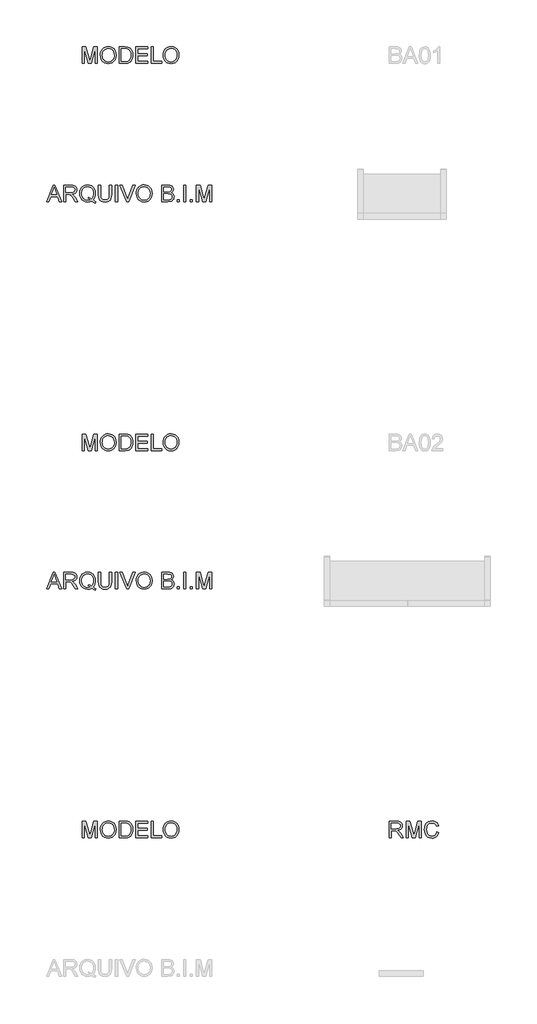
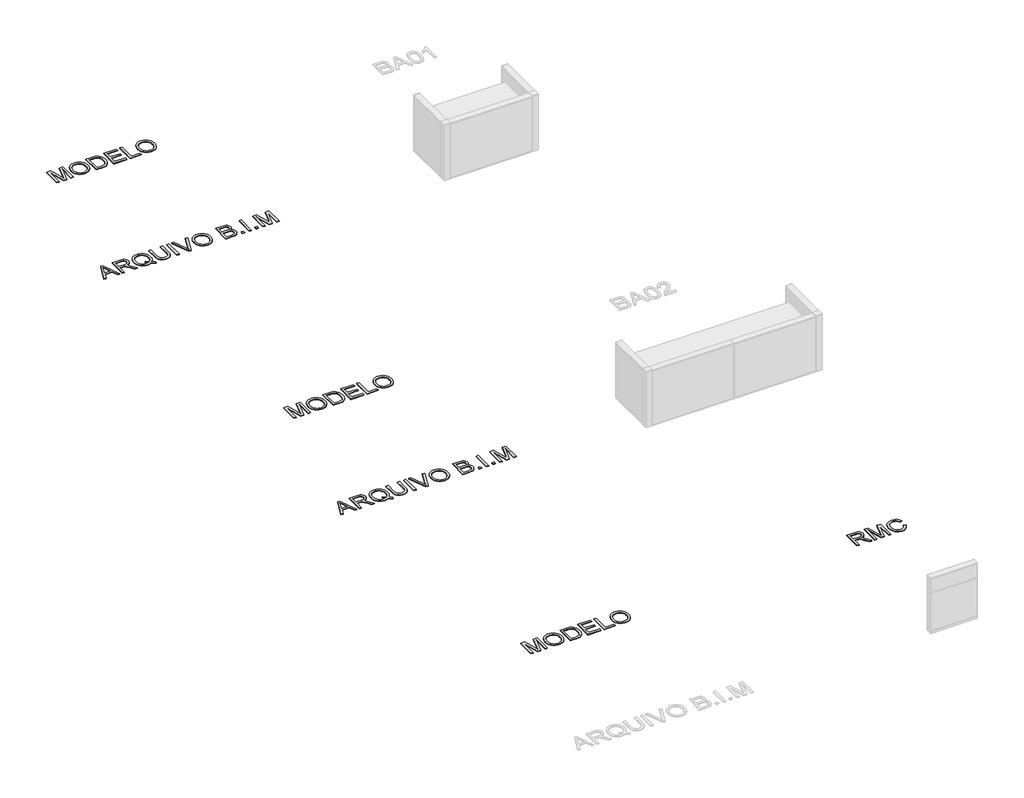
# One storey, part 14 of 15: 6 proxies.
"""IFC4 building model written with IfcOpenShell, lengths in millimetres."""

from ifc_helpers import new_model, si_unit, origin, origin_with_axes, place, context, project, spatial, polyline, outline, extrude, element, save

model = new_model("IFC4")

# Units and contexts
model_context = context("Model", 3, world=origin())
ifc_project = project(units=[si_unit("LENGTHUNIT", "METRE", prefix="MILLI")], contexts=[model_context])

# Site, building, storey
site = spatial("IfcSite", under=ifc_project)
building = spatial("IfcBuilding", under=site)
storey = spatial("IfcBuildingStorey", under=building, Name="Marelli - Linha REASONS - Planta Baixa", Elevation=0.0)

# Proxies
placement = place(None, origin())
element("IfcBuildingElementProxy", 1, Name="300mm Arial", ObjectType="300mm Arial", at=placement, inside=storey, context=model_context, shape_type="SweptSolid", body=[
    extrude(outline(polyline([(15588.7720603, -4780.5663201), (15588.7720603, -4479.1973896), (15718.6344046, -4479.1973896), (15753.5372089, -4481.2299376), (15778.9302636, -4487.3275817), (15797.4899103, -4498.5847708), (15811.8924904, -4516.0959537), (15821.1355255, -4537.8101885), (15824.2165372, -4561.6765329), (15819.1121745, -4591.3646099), (15803.7990865, -4615.9759154), (15792.1993073, -4626.0052983), (15777.8174206, -4634.0205273), (15740.7073243, -4644.0085235), (15762.1180564, -4660.1217548), (15792.652262, -4698.8965171), (15842.9049426, -4780.5663201), (15799.1269851, -4780.5663201), (15759.9107645, -4718.0999573), (15731.5838508, -4676.750021), (15711.6814349, -4657.2154871), (15693.7655817, -4650.0417882), (15671.9133912, -4648.717413), (15626.4431766, -4648.717413), (15626.4431766, -4780.5663201), (15588.7720603, -4780.5663201)]), holes=[polyline([(15626.4431766, -4611.0462967), (15710.7617299, -4611.0462967), (15734.9775622, -4609.7127245), (15753.7671351, -4605.7120078), (15767.9121979, -4598.7774322), (15778.1944996, -4588.6422832), (15784.4576906, -4576.3826157), (15786.5454209, -4563.0744845), (15782.5630983, -4544.6987789), (15770.6161305, -4529.8915286), (15750.060724, -4520.1242616), (15720.2530854, -4516.8685059), (15626.4431766, -4516.8685059), (15626.4431766, -4611.0462967)])]), origin_with_axes(), (0.0, 0.0, 1.0), 10.0),
    extrude(outline(polyline([(15890.1409908, -4780.5663201), (15890.1409908, -4479.1973896), (15954.9617983, -4479.1973896), (16016.6188207, -4691.6124536), (16029.0532321, -4735.9790223), (16042.5177132, -4687.9336337), (16103.144666, -4479.1973896), (16167.9654735, -4479.1973896), (16167.9654735, -4780.5663201), (16130.2943572, -4780.5663201), (16130.2943572, -4516.8685059), (16054.5842426, -4780.5663201), (16003.5222217, -4780.5663201), (15927.8121071, -4516.8685059), (15927.8121071, -4780.5663201), (15890.1409908, -4780.5663201)])), origin_with_axes(), (0.0, 0.0, 1.0), 10.0),
    extrude(outline(polyline([(16445.7899563, -4673.4390831), (16483.4610726, -4683.1511677), (16476.0068636, -4706.5783531), (16466.0786483, -4727.0486868), (16453.6764265, -4744.5621691), (16438.8001984, -4759.1187997), (16421.7856561, -4770.5622291), (16402.968492, -4778.7361071), (16382.3487062, -4783.640434), (16359.9262986, -4785.2752096), (16316.2311146, -4780.3271968), (16281.5306454, -4765.4831583), (16254.9327772, -4741.2581289), (16235.545396, -4708.1671434), (16223.7087928, -4669.2636224), (16219.7632584, -4627.6009865), (16224.2238276, -4583.6574821), (16237.6055352, -4545.7104543), (16259.2094054, -4514.9647166), (16288.3364623, -4492.6250824), (16322.8805817, -4479.0226457), (16360.735639, -4474.4885001), (16402.03959, -4480.3562179), (16420.0083262, -4487.6908652), (16436.1882362, -4497.9593714), (16450.3126055, -4510.8904235), (16462.1147198, -4526.2127086), (16478.752183, -4564.0309777), (16441.0810667, -4573.0072984), (16428.0212559, -4545.5357104), (16410.1789791, -4526.6909552), (16387.3335072, -4515.7924511), (16359.264111, -4512.1596164), (16326.9088895, -4516.1879242), (16300.3294154, -4528.2728478), (16280.160285, -4547.1451941), (16267.0360948, -4571.5357704), (16259.8348048, -4599.1085259), (16257.4343747, -4627.5274101), (16260.2762631, -4662.3290468), (16268.8019284, -4692.421794), (16283.3332672, -4716.6560205), (16304.1921763, -4733.8820949), (16329.1989549, -4744.1735937), (16356.1739022, -4747.6040933), (16387.6186158, -4742.931992), (16413.8210109, -4728.9156879), (16433.6038652, -4705.702334), (16445.7899563, -4673.4390831)])), origin_with_axes(), (0.0, 0.0, 1.0), 10.0),
])
element("IfcBuildingElementProxy", 2, Name="300mm Arial", ObjectType="300mm Arial", at=placement, inside=storey, context=model_context, shape_type="SweptSolid", body=[
    extrude(outline(polyline([(10033.1230948, -4780.5663201), (10033.1230948, -4479.1973896), (10097.9439023, -4479.1973896), (10159.6009247, -4691.6124536), (10172.0353362, -4735.9790223), (10185.4998172, -4687.9336337), (10246.12677, -4479.1973896), (10310.9475775, -4479.1973896), (10310.9475775, -4780.5663201), (10273.2764612, -4780.5663201), (10273.2764612, -4516.8685059), (10197.5663466, -4780.5663201), (10146.5043257, -4780.5663201), (10070.7942111, -4516.8685059), (10070.7942111, -4780.5663201), (10033.1230948, -4780.5663201)])), origin_with_axes(), (0.0, 0.0, 1.0), 10.0),
    extrude(outline(polyline([(10362.7453625, -4633.8549804), (10365.2561571, -4598.5061192), (10372.7885409, -4567.213157), (10385.342514, -4539.9760937), (10402.9180763, -4516.7949295), (10424.4621657, -4498.2858666), (10448.9217198, -4485.0651074), (10476.2967388, -4477.1326519), (10506.5872226, -4474.4885001), (10546.116143, -4479.454907), (10581.5615732, -4494.3541278), (10610.9921328, -4518.1376988), (10632.4764413, -4549.7571563), (10645.6098286, -4587.68579), (10649.9876243, -4630.3968896), (10645.3799023, -4673.6782064), (10631.5567363, -4712.140269), (10609.2814815, -4743.8149088), (10579.317493, -4766.733957), (10544.1755654, -4780.6398965), (10506.3664934, -4785.2752096), (10466.2305677, -4780.1524528), (10430.5828024, -4764.7841825), (10401.2258192, -4740.5591531), (10379.9622398, -4708.8661192), (10367.0495818, -4672.3998164), (10362.7453625, -4633.8549804)]), holes=[polyline([(10400.4164788, -4634.2228624), (10402.2995747, -4659.1974513), (10407.9488626, -4681.3669401), (10417.3643424, -4700.7313286), (10430.5460142, -4717.2906169), (10446.5695743, -4730.5527628), (10464.5107194, -4740.0257242), (10484.3694493, -4745.709501), (10506.1457642, -4747.6040933), (10528.2945596, -4745.6911069), (10548.3878143, -4739.9521478), (10566.4255284, -4730.3872159), (10582.4077018, -4716.9963113), (10595.4928045, -4700.0875351), (10604.8393064, -4679.9689885), (10610.4472076, -4656.6406715), (10612.316508, -4630.102584), (10609.1159346, -4596.7540812), (10599.5142146, -4567.9305269), (10583.7596681, -4544.358488), (10562.1006157, -4526.7645316), (10535.9717969, -4515.8108452), (10506.8079518, -4512.1596164), (10485.7880943, -4513.9185522), (10466.28575, -4519.1953595), (10448.300919, -4527.9900385), (10431.8336012, -4540.302589), (10418.0886101, -4556.7262208), (10408.2707594, -4577.8541437), (10402.3800489, -4603.6863575), (10400.4164788, -4634.2228624)])]), origin_with_axes(), (0.0, 0.0, 1.0), 10.0),
    extrude(outline(polyline([(10701.7854092, -4780.5663201), (10701.7854092, -4479.1973896), (10805.7488611, -4479.1973896), (10859.5332088, -4483.5383972), (10883.555903, -4491.9077126), (10903.826201, -4505.0962821), (10924.666716, -4528.0521186), (10939.5107545, -4556.5997614), (10948.3951047, -4590.1873876), (10951.3565547, -4628.2631741), (10949.3515979, -4660.6091985), (10943.3367273, -4689.0740679), (10934.1764656, -4713.3082943), (10922.7353355, -4732.9623899), (10909.5651601, -4748.477813), (10895.2177623, -4760.2960221), (10878.745846, -4769.0608107), (10859.202115, -4775.4159721), (10810.7520562, -4780.5663201), (10701.7854092, -4780.5663201)]), holes=[polyline([(10739.4565255, -4742.8952038), (10806.1167431, -4742.8952038), (10833.6894986, -4741.5340404), (10854.60359, -4737.4505502), (10870.3857276, -4730.8838566), (10882.5626217, -4722.0730828), (10895.6500236, -4705.7667134), (10905.48167, -4684.6594839), (10911.6344963, -4658.6594239), (10913.6854384, -4627.6745629), (10909.6663276, -4586.6189322), (10897.6089953, -4556.3054558), (10879.7943096, -4535.4833349), (10858.5031392, -4522.9017706), (10836.8348897, -4518.3768221), (10805.0866735, -4516.8685059), (10739.4565255, -4516.8685059), (10739.4565255, -4742.8952038)])]), origin_with_axes(), (0.0, 0.0, 1.0), 10.0),
    extrude(outline(polyline([(11003.1543397, -4780.5663201), (11003.1543397, -4479.1973896), (11219.7632584, -4479.1973896), (11219.7632584, -4516.8685059), (11040.825456, -4516.8685059), (11040.825456, -4606.3374072), (11210.3454794, -4606.3374072), (11210.3454794, -4644.0085235), (11040.825456, -4644.0085235), (11040.825456, -4742.8952038), (11224.472148, -4742.8952038), (11224.472148, -4780.5663201), (11003.1543397, -4780.5663201)])), origin_with_axes(), (0.0, 0.0, 1.0), 10.0),
    extrude(outline(polyline([(11280.9788224, -4780.5663201), (11280.9788224, -4479.1973896), (11318.6499387, -4479.1973896), (11318.6499387, -4742.8952038), (11469.334404, -4742.8952038), (11469.334404, -4780.5663201), (11280.9788224, -4780.5663201)])), origin_with_axes(), (0.0, 0.0, 1.0), 10.0),
    extrude(outline(polyline([(11497.5877412, -4633.8549804), (11500.0985358, -4598.5061192), (11507.6309197, -4567.213157), (11520.1848927, -4539.9760937), (11537.7604551, -4516.7949295), (11559.3045444, -4498.2858666), (11583.7640986, -4485.0651074), (11611.1391175, -4477.1326519), (11641.4296013, -4474.4885001), (11680.9585217, -4479.454907), (11716.4039519, -4494.3541278), (11745.8345115, -4518.1376988), (11767.3188201, -4549.7571563), (11780.4522073, -4587.68579), (11784.830003, -4630.3968896), (11780.222281, -4673.6782064), (11766.3991151, -4712.140269), (11744.1238603, -4743.8149088), (11714.1598717, -4766.733957), (11679.0179442, -4780.6398965), (11641.2088721, -4785.2752096), (11601.0729464, -4780.1524528), (11565.4251811, -4764.7841825), (11536.0681979, -4740.5591531), (11514.8046186, -4708.8661192), (11501.8919605, -4672.3998164), (11497.5877412, -4633.8549804)]), holes=[polyline([(11535.2588575, -4634.2228624), (11537.1419535, -4659.1974513), (11542.7912413, -4681.3669401), (11552.2067212, -4700.7313286), (11565.3883929, -4717.2906169), (11581.4119531, -4730.5527628), (11599.3530981, -4740.0257242), (11619.2118281, -4745.709501), (11640.9881429, -4747.6040933), (11663.1369383, -4745.6911069), (11683.230193, -4739.9521478), (11701.2679071, -4730.3872159), (11717.2500805, -4716.9963113), (11730.3351832, -4700.0875351), (11739.6816852, -4679.9689885), (11745.2895863, -4656.6406715), (11747.1588867, -4630.102584), (11743.9583134, -4596.7540812), (11734.3565933, -4567.9305269), (11718.6020468, -4544.358488), (11696.9429944, -4526.7645316), (11670.8141757, -4515.8108452), (11641.6503305, -4512.1596164), (11620.630473, -4513.9185522), (11601.1281287, -4519.1953595), (11583.1432977, -4527.9900385), (11566.6759799, -4540.302589), (11552.9309888, -4556.7262208), (11543.1131381, -4577.8541437), (11537.2224276, -4603.6863575), (11535.2588575, -4634.2228624)])]), origin_with_axes(), (0.0, 0.0, 1.0), 10.0),
])
element("IfcBuildingElementProxy", 3, Name="300mm Arial", ObjectType="300mm Arial", at=placement, inside=storey, context=model_context, shape_type="SweptSolid", body=[
    extrude(outline(polyline([(9390.580402, -280.5663201), (9510.8778144, 20.8026104), (9542.9571244, 20.8026104), (9663.2545368, -280.5663201), (9623.449705, -280.5663201), (9588.9423738, -186.3885293), (9464.8189886, -186.3885293), (9430.3852339, -280.5663201), (9390.580402, -280.5663201)]), holes=[polyline([(9478.6513517, -148.717413), (9575.1835872, -148.717413), (9548.0338959, -74.6259792), (9526.9174694, -16.8685059), (9508.1554877, -68.1512561), (9478.6513517, -148.717413)])]), origin_with_axes(), (0.0, 0.0, 1.0), 10.0),
    extrude(outline(polyline([(9703.5008271, -280.5663201), (9703.5008271, 20.8026104), (9833.3631714, 20.8026104), (9868.2659757, 18.7700624), (9893.6590304, 12.6724183), (9912.2186771, 1.4152292), (9926.6212572, -16.0959537), (9935.8642923, -37.8101885), (9938.945304, -61.6765329), (9933.8409413, -91.3646099), (9918.5278533, -115.9759154), (9906.9280741, -126.0052983), (9892.5461874, -134.0205273), (9855.4360911, -144.0085235), (9876.8468232, -160.1217548), (9907.3810288, -198.8965171), (9957.6337094, -280.5663201), (9913.855752, -280.5663201), (9874.6395313, -218.0999573), (9846.3126176, -176.750021), (9826.4102017, -157.2154871), (9808.4943485, -150.0417882), (9786.642158, -148.717413), (9741.1719434, -148.717413), (9741.1719434, -280.5663201), (9703.5008271, -280.5663201)]), holes=[polyline([(9741.1719434, -111.0462967), (9825.4904967, -111.0462967), (9849.706329, -109.7127245), (9868.4959019, -105.7120078), (9882.6409647, -98.7774322), (9892.9232664, -88.6422832), (9899.1864574, -76.3826157), (9901.2741877, -63.0744845), (9897.2918651, -44.6987789), (9885.3448973, -29.8915286), (9864.7894908, -20.1242616), (9834.9818522, -16.8685059), (9741.1719434, -16.8685059), (9741.1719434, -111.0462967)])]), origin_with_axes(), (0.0, 0.0, 1.0), 10.0),
    extrude(outline(polyline([(10231.2643374, -244.4403081), (10255.5997314, -263.036743), (10277.9853508, -275.8574305), (10267.8318077, -303.4485802), (10236.7641732, -289.0460001), (10205.8069033, -268.205485), (10170.9500843, -281.0077785), (10132.5983863, -285.2752096), (10094.0627473, -280.3547879), (10059.2427164, -265.5935229), (10030.0788713, -241.9203165), (10008.5117893, -210.2640708), (9995.185264, -172.3630282), (9990.7430889, -129.9554312), (9995.176067, -87.511046), (10008.4750011, -49.0581805), (10029.9593096, -16.9512794), (10058.9484108, 6.4552126), (10093.639683, 20.7474281), (10132.2305043, 25.5114999), (10171.1248282, 20.6370635), (10205.9908443, 6.0137542), (10234.9339603, -17.3835407), (10256.0595839, -48.5799339), (10268.9722419, -85.9199564), (10273.2764612, -127.7481393), (10270.6644991, -162.5313819), (10262.8286126, -193.5990164), (10249.7136194, -220.9142546), (10231.2643374, -244.4403081)]), holes=[polyline([(10142.9726585, -194.3347804), (10174.6472983, -206.3093393), (10200.215097, -222.9559996), (10215.6983305, -205.4816049), (10226.7577829, -184.1076609), (10233.3934544, -158.8341679), (10235.6053449, -129.6611256), (10232.478348, -96.5057608), (10223.0973571, -67.8201623), (10207.6922985, -44.3308969), (10186.4930986, -26.7645316), (10160.934497, -15.8108452), (10132.4512335, -12.1596164), (10110.966925, -14.0059242), (10091.3956028, -19.5448474), (10073.7372671, -28.7763863), (10057.9919177, -41.7005406), (10045.0516685, -58.2897193), (10035.8086334, -78.5163313), (10030.2628123, -102.3803764), (10028.4142052, -129.8818548), (10030.2421189, -156.6659634), (10035.7258599, -180.1437324), (10044.8654282, -200.3151621), (10057.6608239, -217.1802523), (10073.2981079, -230.4906827), (10090.9633415, -239.9981331), (10110.6565245, -245.7026032), (10132.3776571, -247.6040933), (10153.2917485, -245.6727128), (10172.918253, -239.8785714), (10153.6228423, -229.853787), (10133.2605739, -223.1767288), (10142.9726585, -194.3347804)])]), origin_with_axes(), (0.0, 0.0, 1.0), 10.0),
    extrude(outline(polyline([(10527.5564963, 20.8026104), (10565.2276126, 20.8026104), (10565.2276126, -153.0584205), (10562.6708327, -193.7737604), (10555.0004931, -225.1265034), (10540.6714894, -249.3147446), (10518.1387172, -268.5365788), (10487.3469942, -281.0905519), (10448.2411381, -285.2752096), (10409.9906077, -281.6331779), (10379.4104168, -270.7070826), (10356.4913685, -252.8740029), (10341.2242657, -228.5110178), (10332.6434182, -195.8338995), (10329.7831357, -153.0584205), (10329.7831357, 20.8026104), (10367.454252, 20.8026104), (10367.454252, -151.7340454), (10369.3120561, -185.588386), (10374.8854683, -209.1604248), (10384.9838291, -225.4851883), (10400.4164788, -237.597703), (10420.5396239, -245.1024957), (10444.709471, -247.6040933), (10483.0243808, -242.6560805), (10497.3671801, -236.4710644), (10508.500209, -227.812042), (10516.8373347, -215.6351479), (10522.7924245, -198.8965171), (10527.5564963, -151.7340454), (10527.5564963, 20.8026104)])), origin_with_axes(), (0.0, 0.0, 1.0), 10.0),
    extrude(outline(polyline([(10635.8609557, -280.5663201), (10635.8609557, 20.8026104), (10673.532072, 20.8026104), (10673.532072, -280.5663201), (10635.8609557, -280.5663201)])), origin_with_axes(), (0.0, 0.0, 1.0), 10.0),
    extrude(outline(polyline([(10837.9017474, -280.5663201), (10717.972217, 20.8026104), (10758.2920837, 20.8026104), (10838.563935, -196.3213432), (10854.8243192, -245.2496485), (10870.8639742, -196.3213432), (10951.3565547, 20.8026104), (10991.6764214, 20.8026104), (10876.8236625, -280.5663201), (10837.9017474, -280.5663201)])), origin_with_axes(), (0.0, 0.0, 1.0), 10.0),
    extrude(outline(polyline([(11012.5721187, -133.8549804), (11015.0829134, -98.5061192), (11022.6152972, -67.213157), (11035.1692703, -39.9760937), (11052.7448326, -16.7949295), (11074.288922, 1.7141334), (11098.7484761, 14.9348926), (11126.1234951, 22.8673481), (11156.4139789, 25.5114999), (11195.9428992, 20.545093), (11231.3883295, 5.6458722), (11260.8188891, -18.1376988), (11282.3031976, -49.7571563), (11295.4365848, -87.68579), (11299.8143806, -130.3968896), (11295.2066586, -173.6782064), (11281.3834926, -212.140269), (11259.1082378, -243.8149088), (11229.1442493, -266.733957), (11194.0023217, -280.6398965), (11156.1932497, -285.2752096), (11116.057324, -280.1524528), (11080.4095587, -264.7841825), (11051.0525754, -240.5591531), (11029.7889961, -208.8661192), (11016.8763381, -172.3998164), (11012.5721187, -133.8549804)]), holes=[polyline([(11050.2432351, -134.2228624), (11052.126331, -159.1974513), (11057.7756189, -181.3669401), (11067.1910987, -200.7313286), (11080.3727705, -217.2906169), (11096.3963306, -230.5527628), (11114.3374757, -240.0257242), (11134.1962056, -245.709501), (11155.9725205, -247.6040933), (11178.1213158, -245.6911069), (11198.2145706, -239.9521478), (11216.2522846, -230.3872159), (11232.2344581, -216.9963113), (11245.3195608, -200.0875351), (11254.6660627, -179.9689885), (11260.2739639, -156.6406715), (11262.1432643, -130.102584), (11258.9426909, -96.7540812), (11249.3409708, -67.9305269), (11233.5864244, -44.358488), (11211.9273719, -26.7645316), (11185.7985532, -15.8108452), (11156.6347081, -12.1596164), (11135.6148506, -13.9185522), (11116.1125063, -19.1953595), (11098.1276752, -27.9900385), (11081.6603574, -40.302589), (11067.9153664, -56.7262208), (11058.0975156, -77.8541437), (11052.2068052, -103.6863575), (11050.2432351, -134.2228624)])]), origin_with_axes(), (0.0, 0.0, 1.0), 10.0),
    extrude(outline(polyline([(11469.334404, -280.5663201), (11469.334404, 20.8026104), (11584.3343157, 20.8026104), (11615.9629702, 18.5861214), (11640.6570491, 11.9366543), (11659.5845778, 0.6886623), (11673.9135815, -15.3234015), (11682.9358874, -34.1589597), (11685.9433227, -53.8774346), (11683.414134, -72.0232141), (11675.8265679, -89.0837416), (11663.125442, -104.0105535), (11645.2555741, -115.7551862), (11666.6019268, -126.9020107), (11682.3748674, -143.8613707), (11692.1145432, -165.5112261), (11695.3611018, -190.7295368), (11693.1446128, -211.7447958), (11686.4951457, -231.2333445), (11676.5715289, -247.8064284), (11664.5325906, -260.0752929), (11649.7897196, -268.9596431), (11631.7543048, -275.3791839), (11583.4513989, -280.5663201), (11469.334404, -280.5663201)]), holes=[polyline([(11507.0055203, -101.6285176), (11575.7994534, -101.6285176), (11615.9721672, -98.3911561), (11630.0344565, -92.8085468), (11640.1420143, -84.4484284), (11646.2396584, -73.4395597), (11648.2722064, -59.9106994), (11646.3776141, -46.7773121), (11640.6938373, -35.3361821), (11631.4783933, -26.4058467), (11618.9887996, -20.8048433), (11570.575529, -16.8685059), (11507.0055203, -16.8685059), (11507.0055203, -101.6285176)]), polyline([(11507.0055203, -242.8952038), (11584.2607393, -242.8952038), (11612.2197709, -241.4236758), (11635.8745832, -233.2199073), (11651.5463562, -216.4812765), (11656.1540782, -204.6538704), (11657.6899855, -191.0974188), (11655.8873637, -175.3520694), (11650.4794984, -161.814012), (11641.0341282, -151.2282076), (11627.1189917, -144.3396173), (11607.4097138, -140.5596298), (11580.5819193, -139.2996339), (11507.0055203, -139.2996339), (11507.0055203, -242.8952038)])]), origin_with_axes(), (0.0, 0.0, 1.0), 10.0),
    extrude(outline(polyline([(11751.8677763, -280.5663201), (11751.8677763, -242.8952038), (11789.5388926, -242.8952038), (11789.5388926, -280.5663201), (11751.8677763, -280.5663201)])), origin_with_axes(), (0.0, 0.0, 1.0), 10.0),
    extrude(outline(polyline([(11869.5900147, -280.5663201), (11869.5900147, 20.8026104), (11907.261131, 20.8026104), (11907.261131, -280.5663201), (11869.5900147, -280.5663201)])), origin_with_axes(), (0.0, 0.0, 1.0), 10.0),
    extrude(outline(polyline([(11987.3122532, -280.5663201), (11987.3122532, -242.8952038), (12024.9833695, -242.8952038), (12024.9833695, -280.5663201), (11987.3122532, -280.5663201)])), origin_with_axes(), (0.0, 0.0, 1.0), 10.0),
    extrude(outline(polyline([(12100.3256021, -280.5663201), (12100.3256021, 20.8026104), (12165.1464096, 20.8026104), (12226.803432, -191.6124536), (12239.2378435, -235.9790223), (12252.7023245, -187.9336337), (12313.3292773, 20.8026104), (12378.1500848, 20.8026104), (12378.1500848, -280.5663201), (12340.4789685, -280.5663201), (12340.4789685, -16.8685059), (12264.7688539, -280.5663201), (12213.706833, -280.5663201), (12137.9967184, -16.8685059), (12137.9967184, -280.5663201), (12100.3256021, -280.5663201)])), origin_with_axes(), (0.0, 0.0, 1.0), 10.0),
])
element("IfcBuildingElementProxy", 4, Name="300mm Arial", ObjectType="300mm Arial", at=placement, inside=storey, context=model_context, shape_type="SweptSolid", body=[
    extrude(outline(polyline([(10033.1230948, 2219.4336799), (10033.1230948, 2520.8026104), (10097.9439023, 2520.8026104), (10159.6009247, 2308.3875464), (10172.0353362, 2264.0209777), (10185.4998172, 2312.0663663), (10246.12677, 2520.8026104), (10310.9475775, 2520.8026104), (10310.9475775, 2219.4336799), (10273.2764612, 2219.4336799), (10273.2764612, 2483.1314941), (10197.5663466, 2219.4336799), (10146.5043257, 2219.4336799), (10070.7942111, 2483.1314941), (10070.7942111, 2219.4336799), (10033.1230948, 2219.4336799)])), origin_with_axes(), (0.0, 0.0, 1.0), 10.0),
    extrude(outline(polyline([(10362.7453625, 2366.1450196), (10365.2561571, 2401.4938808), (10372.7885409, 2432.786843), (10385.342514, 2460.0239063), (10402.9180763, 2483.2050705), (10424.4621657, 2501.7141334), (10448.9217198, 2514.9348926), (10476.2967388, 2522.8673481), (10506.5872226, 2525.5114999), (10546.116143, 2520.545093), (10581.5615732, 2505.6458722), (10610.9921328, 2481.8623012), (10632.4764413, 2450.2428437), (10645.6098286, 2412.31421), (10649.9876243, 2369.6031104), (10645.3799023, 2326.3217936), (10631.5567363, 2287.859731), (10609.2814815, 2256.1850912), (10579.317493, 2233.266043), (10544.1755654, 2219.3601035), (10506.3664934, 2214.7247904), (10466.2305677, 2219.8475472), (10430.5828024, 2235.2158175), (10401.2258192, 2259.4408469), (10379.9622398, 2291.1338808), (10367.0495818, 2327.6001836), (10362.7453625, 2366.1450196)]), holes=[polyline([(10400.4164788, 2365.7771376), (10402.2995747, 2340.8025487), (10407.9488626, 2318.6330599), (10417.3643424, 2299.2686714), (10430.5460142, 2282.7093831), (10446.5695743, 2269.4472372), (10464.5107194, 2259.9742758), (10484.3694493, 2254.290499), (10506.1457642, 2252.3959067), (10528.2945596, 2254.3088931), (10548.3878143, 2260.0478522), (10566.4255284, 2269.6127841), (10582.4077018, 2283.0036887), (10595.4928045, 2299.9124649), (10604.8393064, 2320.0310115), (10610.4472076, 2343.3593285), (10612.316508, 2369.897416), (10609.1159346, 2403.2459188), (10599.5142146, 2432.0694731), (10583.7596681, 2455.641512), (10562.1006157, 2473.2354684), (10535.9717969, 2484.1891548), (10506.8079518, 2487.8403836), (10485.7880943, 2486.0814478), (10466.28575, 2480.8046405), (10448.300919, 2472.0099615), (10431.8336012, 2459.697411), (10418.0886101, 2443.2737792), (10408.2707594, 2422.1458563), (10402.3800489, 2396.3136425), (10400.4164788, 2365.7771376)])]), origin_with_axes(), (0.0, 0.0, 1.0), 10.0),
    extrude(outline(polyline([(10701.7854092, 2219.4336799), (10701.7854092, 2520.8026104), (10805.7488611, 2520.8026104), (10859.5332088, 2516.4616028), (10883.555903, 2508.0922874), (10903.826201, 2494.9037179), (10924.666716, 2471.9478814), (10939.5107545, 2443.4002386), (10948.3951047, 2409.8126124), (10951.3565547, 2371.7368259), (10949.3515979, 2339.3908015), (10943.3367273, 2310.9259321), (10934.1764656, 2286.6917057), (10922.7353355, 2267.0376101), (10909.5651601, 2251.522187), (10895.2177623, 2239.7039779), (10878.745846, 2230.9391893), (10859.202115, 2224.5840279), (10810.7520562, 2219.4336799), (10701.7854092, 2219.4336799)]), holes=[polyline([(10739.4565255, 2257.1047962), (10806.1167431, 2257.1047962), (10833.6894986, 2258.4659596), (10854.60359, 2262.5494498), (10870.3857276, 2269.1161434), (10882.5626217, 2277.9269172), (10895.6500236, 2294.2332866), (10905.48167, 2315.3405161), (10911.6344963, 2341.3405761), (10913.6854384, 2372.3254371), (10909.6663276, 2413.3810678), (10897.6089953, 2443.6945442), (10879.7943096, 2464.5166651), (10858.5031392, 2477.0982294), (10836.8348897, 2481.6231779), (10805.0866735, 2483.1314941), (10739.4565255, 2483.1314941), (10739.4565255, 2257.1047962)])]), origin_with_axes(), (0.0, 0.0, 1.0), 10.0),
    extrude(outline(polyline([(11003.1543397, 2219.4336799), (11003.1543397, 2520.8026104), (11219.7632584, 2520.8026104), (11219.7632584, 2483.1314941), (11040.825456, 2483.1314941), (11040.825456, 2393.6625928), (11210.3454794, 2393.6625928), (11210.3454794, 2355.9914765), (11040.825456, 2355.9914765), (11040.825456, 2257.1047962), (11224.472148, 2257.1047962), (11224.472148, 2219.4336799), (11003.1543397, 2219.4336799)])), origin_with_axes(), (0.0, 0.0, 1.0), 10.0),
    extrude(outline(polyline([(11280.9788224, 2219.4336799), (11280.9788224, 2520.8026104), (11318.6499387, 2520.8026104), (11318.6499387, 2257.1047962), (11469.334404, 2257.1047962), (11469.334404, 2219.4336799), (11280.9788224, 2219.4336799)])), origin_with_axes(), (0.0, 0.0, 1.0), 10.0),
    extrude(outline(polyline([(11497.5877412, 2366.1450196), (11500.0985358, 2401.4938808), (11507.6309197, 2432.786843), (11520.1848927, 2460.0239063), (11537.7604551, 2483.2050705), (11559.3045444, 2501.7141334), (11583.7640986, 2514.9348926), (11611.1391175, 2522.8673481), (11641.4296013, 2525.5114999), (11680.9585217, 2520.545093), (11716.4039519, 2505.6458722), (11745.8345115, 2481.8623012), (11767.3188201, 2450.2428437), (11780.4522073, 2412.31421), (11784.830003, 2369.6031104), (11780.222281, 2326.3217936), (11766.3991151, 2287.859731), (11744.1238603, 2256.1850912), (11714.1598717, 2233.266043), (11679.0179442, 2219.3601035), (11641.2088721, 2214.7247904), (11601.0729464, 2219.8475472), (11565.4251811, 2235.2158175), (11536.0681979, 2259.4408469), (11514.8046186, 2291.1338808), (11501.8919605, 2327.6001836), (11497.5877412, 2366.1450196)]), holes=[polyline([(11535.2588575, 2365.7771376), (11537.1419535, 2340.8025487), (11542.7912413, 2318.6330599), (11552.2067212, 2299.2686714), (11565.3883929, 2282.7093831), (11581.4119531, 2269.4472372), (11599.3530981, 2259.9742758), (11619.2118281, 2254.290499), (11640.9881429, 2252.3959067), (11663.1369383, 2254.3088931), (11683.230193, 2260.0478522), (11701.2679071, 2269.6127841), (11717.2500805, 2283.0036887), (11730.3351832, 2299.9124649), (11739.6816852, 2320.0310115), (11745.2895863, 2343.3593285), (11747.1588867, 2369.897416), (11743.9583134, 2403.2459188), (11734.3565933, 2432.0694731), (11718.6020468, 2455.641512), (11696.9429944, 2473.2354684), (11670.8141757, 2484.1891548), (11641.6503305, 2487.8403836), (11620.630473, 2486.0814478), (11601.1281287, 2480.8046405), (11583.1432977, 2472.0099615), (11566.6759799, 2459.697411), (11552.9309888, 2443.2737792), (11543.1131381, 2422.1458563), (11537.2224276, 2396.3136425), (11535.2588575, 2365.7771376)])]), origin_with_axes(), (0.0, 0.0, 1.0), 10.0),
])
element("IfcBuildingElementProxy", 5, Name="300mm Arial", ObjectType="300mm Arial", at=placement, inside=storey, context=model_context, shape_type="SweptSolid", body=[
    extrude(outline(polyline([(9390.580402, 6719.4336799), (9510.8778144, 7020.8026104), (9542.9571244, 7020.8026104), (9663.2545368, 6719.4336799), (9623.449705, 6719.4336799), (9588.9423738, 6813.6114707), (9464.8189886, 6813.6114707), (9430.3852339, 6719.4336799), (9390.580402, 6719.4336799)]), holes=[polyline([(9478.6513517, 6851.282587), (9575.1835872, 6851.282587), (9548.0338959, 6925.3740208), (9526.9174694, 6983.1314941), (9508.1554877, 6931.8487439), (9478.6513517, 6851.282587)])]), origin_with_axes(), (0.0, 0.0, 1.0), 10.0),
    extrude(outline(polyline([(9703.5008271, 6719.4336799), (9703.5008271, 7020.8026104), (9833.3631714, 7020.8026104), (9868.2659757, 7018.7700624), (9893.6590304, 7012.6724183), (9912.2186771, 7001.4152292), (9926.6212572, 6983.9040463), (9935.8642923, 6962.1898115), (9938.945304, 6938.3234671), (9933.8409413, 6908.6353901), (9918.5278533, 6884.0240846), (9906.9280741, 6873.9947017), (9892.5461874, 6865.9794727), (9855.4360911, 6855.9914765), (9876.8468232, 6839.8782452), (9907.3810288, 6801.1034829), (9957.6337094, 6719.4336799), (9913.855752, 6719.4336799), (9874.6395313, 6781.9000427), (9846.3126176, 6823.249979), (9826.4102017, 6842.7845129), (9808.4943485, 6849.9582118), (9786.642158, 6851.282587), (9741.1719434, 6851.282587), (9741.1719434, 6719.4336799), (9703.5008271, 6719.4336799)]), holes=[polyline([(9741.1719434, 6888.9537033), (9825.4904967, 6888.9537033), (9849.706329, 6890.2872755), (9868.4959019, 6894.2879922), (9882.6409647, 6901.2225678), (9892.9232664, 6911.3577168), (9899.1864574, 6923.6173843), (9901.2741877, 6936.9255155), (9897.2918651, 6955.3012211), (9885.3448973, 6970.1084714), (9864.7894908, 6979.8757384), (9834.9818522, 6983.1314941), (9741.1719434, 6983.1314941), (9741.1719434, 6888.9537033)])]), origin_with_axes(), (0.0, 0.0, 1.0), 10.0),
    extrude(outline(polyline([(10231.2643374, 6755.5596919), (10255.5997314, 6736.963257), (10277.9853508, 6724.1425695), (10267.8318077, 6696.5514198), (10236.7641732, 6710.9539999), (10205.8069033, 6731.794515), (10170.9500843, 6718.9922215), (10132.5983863, 6714.7247904), (10094.0627473, 6719.6452121), (10059.2427164, 6734.4064771), (10030.0788713, 6758.0796835), (10008.5117893, 6789.7359292), (9995.185264, 6827.6369718), (9990.7430889, 6870.0445688), (9995.176067, 6912.488954), (10008.4750011, 6950.9418195), (10029.9593096, 6983.0487206), (10058.9484108, 7006.4552126), (10093.639683, 7020.7474281), (10132.2305043, 7025.5114999), (10171.1248282, 7020.6370635), (10205.9908443, 7006.0137542), (10234.9339603, 6982.6164593), (10256.0595839, 6951.4200661), (10268.9722419, 6914.0800436), (10273.2764612, 6872.2518607), (10270.6644991, 6837.4686181), (10262.8286126, 6806.4009836), (10249.7136194, 6779.0857454), (10231.2643374, 6755.5596919)]), holes=[polyline([(10142.9726585, 6805.6652196), (10174.6472983, 6793.6906607), (10200.215097, 6777.0440004), (10215.6983305, 6794.5183951), (10226.7577829, 6815.8923391), (10233.3934544, 6841.1658321), (10235.6053449, 6870.3388744), (10232.478348, 6903.4942392), (10223.0973571, 6932.1798377), (10207.6922985, 6955.6691031), (10186.4930986, 6973.2354684), (10160.934497, 6984.1891548), (10132.4512335, 6987.8403836), (10110.966925, 6985.9940758), (10091.3956028, 6980.4551526), (10073.7372671, 6971.2236137), (10057.9919177, 6958.2994594), (10045.0516685, 6941.7102807), (10035.8086334, 6921.4836687), (10030.2628123, 6897.6196236), (10028.4142052, 6870.1181452), (10030.2421189, 6843.3340366), (10035.7258599, 6819.8562676), (10044.8654282, 6799.6848379), (10057.6608239, 6782.8197477), (10073.2981079, 6769.5093173), (10090.9633415, 6760.0018669), (10110.6565245, 6754.2973968), (10132.3776571, 6752.3959067), (10153.2917485, 6754.3272872), (10172.918253, 6760.1214286), (10153.6228423, 6770.146213), (10133.2605739, 6776.8232712), (10142.9726585, 6805.6652196)])]), origin_with_axes(), (0.0, 0.0, 1.0), 10.0),
    extrude(outline(polyline([(10527.5564963, 7020.8026104), (10565.2276126, 7020.8026104), (10565.2276126, 6846.9415795), (10562.6708327, 6806.2262396), (10555.0004931, 6774.8734966), (10540.6714894, 6750.6852554), (10518.1387172, 6731.4634212), (10487.3469942, 6718.9094481), (10448.2411381, 6714.7247904), (10409.9906077, 6718.3668221), (10379.4104168, 6729.2929174), (10356.4913685, 6747.1259971), (10341.2242657, 6771.4889822), (10332.6434182, 6804.1661005), (10329.7831357, 6846.9415795), (10329.7831357, 7020.8026104), (10367.454252, 7020.8026104), (10367.454252, 6848.2659546), (10369.3120561, 6814.411614), (10374.8854683, 6790.8395752), (10384.9838291, 6774.5148117), (10400.4164788, 6762.402297), (10420.5396239, 6754.8975043), (10444.709471, 6752.3959067), (10483.0243808, 6757.3439195), (10497.3671801, 6763.5289356), (10508.500209, 6772.187958), (10516.8373347, 6784.3648521), (10522.7924245, 6801.1034829), (10527.5564963, 6848.2659546), (10527.5564963, 7020.8026104)])), origin_with_axes(), (0.0, 0.0, 1.0), 10.0),
    extrude(outline(polyline([(10635.8609557, 6719.4336799), (10635.8609557, 7020.8026104), (10673.532072, 7020.8026104), (10673.532072, 6719.4336799), (10635.8609557, 6719.4336799)])), origin_with_axes(), (0.0, 0.0, 1.0), 10.0),
    extrude(outline(polyline([(10837.9017474, 6719.4336799), (10717.972217, 7020.8026104), (10758.2920837, 7020.8026104), (10838.563935, 6803.6786568), (10854.8243192, 6754.7503515), (10870.8639742, 6803.6786568), (10951.3565547, 7020.8026104), (10991.6764214, 7020.8026104), (10876.8236625, 6719.4336799), (10837.9017474, 6719.4336799)])), origin_with_axes(), (0.0, 0.0, 1.0), 10.0),
    extrude(outline(polyline([(11012.5721187, 6866.1450196), (11015.0829134, 6901.4938808), (11022.6152972, 6932.786843), (11035.1692703, 6960.0239063), (11052.7448326, 6983.2050705), (11074.288922, 7001.7141334), (11098.7484761, 7014.9348926), (11126.1234951, 7022.8673481), (11156.4139789, 7025.5114999), (11195.9428992, 7020.545093), (11231.3883295, 7005.6458722), (11260.8188891, 6981.8623012), (11282.3031976, 6950.2428437), (11295.4365848, 6912.31421), (11299.8143806, 6869.6031104), (11295.2066586, 6826.3217936), (11281.3834926, 6787.859731), (11259.1082378, 6756.1850912), (11229.1442493, 6733.266043), (11194.0023217, 6719.3601035), (11156.1932497, 6714.7247904), (11116.057324, 6719.8475472), (11080.4095587, 6735.2158175), (11051.0525754, 6759.4408469), (11029.7889961, 6791.1338808), (11016.8763381, 6827.6001836), (11012.5721187, 6866.1450196)]), holes=[polyline([(11050.2432351, 6865.7771376), (11052.126331, 6840.8025487), (11057.7756189, 6818.6330599), (11067.1910987, 6799.2686714), (11080.3727705, 6782.7093831), (11096.3963306, 6769.4472372), (11114.3374757, 6759.9742758), (11134.1962056, 6754.290499), (11155.9725205, 6752.3959067), (11178.1213158, 6754.3088931), (11198.2145706, 6760.0478522), (11216.2522846, 6769.6127841), (11232.2344581, 6783.0036887), (11245.3195608, 6799.9124649), (11254.6660627, 6820.0310115), (11260.2739639, 6843.3593285), (11262.1432643, 6869.897416), (11258.9426909, 6903.2459188), (11249.3409708, 6932.0694731), (11233.5864244, 6955.641512), (11211.9273719, 6973.2354684), (11185.7985532, 6984.1891548), (11156.6347081, 6987.8403836), (11135.6148506, 6986.0814478), (11116.1125063, 6980.8046405), (11098.1276752, 6972.0099615), (11081.6603574, 6959.697411), (11067.9153664, 6943.2737792), (11058.0975156, 6922.1458563), (11052.2068052, 6896.3136425), (11050.2432351, 6865.7771376)])]), origin_with_axes(), (0.0, 0.0, 1.0), 10.0),
    extrude(outline(polyline([(11469.334404, 6719.4336799), (11469.334404, 7020.8026104), (11584.3343157, 7020.8026104), (11615.9629702, 7018.5861214), (11640.6570491, 7011.9366543), (11659.5845778, 7000.6886623), (11673.9135815, 6984.6765985), (11682.9358874, 6965.8410403), (11685.9433227, 6946.1225654), (11683.414134, 6927.9767859), (11675.8265679, 6910.9162584), (11663.125442, 6895.9894465), (11645.2555741, 6884.2448138), (11666.6019268, 6873.0979893), (11682.3748674, 6856.1386293), (11692.1145432, 6834.4887739), (11695.3611018, 6809.2704632), (11693.1446128, 6788.2552042), (11686.4951457, 6768.7666555), (11676.5715289, 6752.1935716), (11664.5325906, 6739.9247071), (11649.7897196, 6731.0403569), (11631.7543048, 6724.6208161), (11583.4513989, 6719.4336799), (11469.334404, 6719.4336799)]), holes=[polyline([(11507.0055203, 6898.3714824), (11575.7994534, 6898.3714824), (11615.9721672, 6901.6088439), (11630.0344565, 6907.1914532), (11640.1420143, 6915.5515716), (11646.2396584, 6926.5604403), (11648.2722064, 6940.0893006), (11646.3776141, 6953.2226879), (11640.6938373, 6964.6638179), (11631.4783933, 6973.5941533), (11618.9887996, 6979.1951567), (11570.575529, 6983.1314941), (11507.0055203, 6983.1314941), (11507.0055203, 6898.3714824)]), polyline([(11507.0055203, 6757.1047962), (11584.2607393, 6757.1047962), (11612.2197709, 6758.5763242), (11635.8745832, 6766.7800927), (11651.5463562, 6783.5187235), (11656.1540782, 6795.3461296), (11657.6899855, 6808.9025812), (11655.8873637, 6824.6479306), (11650.4794984, 6838.185988), (11641.0341282, 6848.7717924), (11627.1189917, 6855.6603827), (11607.4097138, 6859.4403702), (11580.5819193, 6860.7003661), (11507.0055203, 6860.7003661), (11507.0055203, 6757.1047962)])]), origin_with_axes(), (0.0, 0.0, 1.0), 10.0),
    extrude(outline(polyline([(11751.8677763, 6719.4336799), (11751.8677763, 6757.1047962), (11789.5388926, 6757.1047962), (11789.5388926, 6719.4336799), (11751.8677763, 6719.4336799)])), origin_with_axes(), (0.0, 0.0, 1.0), 10.0),
    extrude(outline(polyline([(11869.5900147, 6719.4336799), (11869.5900147, 7020.8026104), (11907.261131, 7020.8026104), (11907.261131, 6719.4336799), (11869.5900147, 6719.4336799)])), origin_with_axes(), (0.0, 0.0, 1.0), 10.0),
    extrude(outline(polyline([(11987.3122532, 6719.4336799), (11987.3122532, 6757.1047962), (12024.9833695, 6757.1047962), (12024.9833695, 6719.4336799), (11987.3122532, 6719.4336799)])), origin_with_axes(), (0.0, 0.0, 1.0), 10.0),
    extrude(outline(polyline([(12100.3256021, 6719.4336799), (12100.3256021, 7020.8026104), (12165.1464096, 7020.8026104), (12226.803432, 6808.3875464), (12239.2378435, 6764.0209777), (12252.7023245, 6812.0663663), (12313.3292773, 7020.8026104), (12378.1500848, 7020.8026104), (12378.1500848, 6719.4336799), (12340.4789685, 6719.4336799), (12340.4789685, 6983.1314941), (12264.7688539, 6719.4336799), (12213.706833, 6719.4336799), (12137.9967184, 6983.1314941), (12137.9967184, 6719.4336799), (12100.3256021, 6719.4336799)])), origin_with_axes(), (0.0, 0.0, 1.0), 10.0),
])
element("IfcBuildingElementProxy", 6, Name="300mm Arial", ObjectType="300mm Arial", at=placement, inside=storey, context=model_context, shape_type="SweptSolid", body=[
    extrude(outline(polyline([(10033.1230948, 9219.4336799), (10033.1230948, 9520.8026104), (10097.9439023, 9520.8026104), (10159.6009247, 9308.3875464), (10172.0353362, 9264.0209777), (10185.4998172, 9312.0663663), (10246.12677, 9520.8026104), (10310.9475775, 9520.8026104), (10310.9475775, 9219.4336799), (10273.2764612, 9219.4336799), (10273.2764612, 9483.1314941), (10197.5663466, 9219.4336799), (10146.5043257, 9219.4336799), (10070.7942111, 9483.1314941), (10070.7942111, 9219.4336799), (10033.1230948, 9219.4336799)])), origin_with_axes(), (0.0, 0.0, 1.0), 10.0),
    extrude(outline(polyline([(10362.7453625, 9366.1450196), (10365.2561571, 9401.4938808), (10372.7885409, 9432.786843), (10385.342514, 9460.0239063), (10402.9180763, 9483.2050705), (10424.4621657, 9501.7141334), (10448.9217198, 9514.9348926), (10476.2967388, 9522.8673481), (10506.5872226, 9525.5114999), (10546.116143, 9520.545093), (10581.5615732, 9505.6458722), (10610.9921328, 9481.8623012), (10632.4764413, 9450.2428437), (10645.6098286, 9412.31421), (10649.9876243, 9369.6031104), (10645.3799023, 9326.3217936), (10631.5567363, 9287.859731), (10609.2814815, 9256.1850912), (10579.317493, 9233.266043), (10544.1755654, 9219.3601035), (10506.3664934, 9214.7247904), (10466.2305677, 9219.8475472), (10430.5828024, 9235.2158175), (10401.2258192, 9259.4408469), (10379.9622398, 9291.1338808), (10367.0495818, 9327.6001836), (10362.7453625, 9366.1450196)]), holes=[polyline([(10400.4164788, 9365.7771376), (10402.2995747, 9340.8025487), (10407.9488626, 9318.6330599), (10417.3643424, 9299.2686714), (10430.5460142, 9282.7093831), (10446.5695743, 9269.4472372), (10464.5107194, 9259.9742758), (10484.3694493, 9254.290499), (10506.1457642, 9252.3959067), (10528.2945596, 9254.3088931), (10548.3878143, 9260.0478522), (10566.4255284, 9269.6127841), (10582.4077018, 9283.0036887), (10595.4928045, 9299.9124649), (10604.8393064, 9320.0310115), (10610.4472076, 9343.3593285), (10612.316508, 9369.897416), (10609.1159346, 9403.2459188), (10599.5142146, 9432.0694731), (10583.7596681, 9455.641512), (10562.1006157, 9473.2354684), (10535.9717969, 9484.1891548), (10506.8079518, 9487.8403836), (10485.7880943, 9486.0814478), (10466.28575, 9480.8046405), (10448.300919, 9472.0099615), (10431.8336012, 9459.697411), (10418.0886101, 9443.2737792), (10408.2707594, 9422.1458563), (10402.3800489, 9396.3136425), (10400.4164788, 9365.7771376)])]), origin_with_axes(), (0.0, 0.0, 1.0), 10.0),
    extrude(outline(polyline([(10701.7854092, 9219.4336799), (10701.7854092, 9520.8026104), (10805.7488611, 9520.8026104), (10859.5332088, 9516.4616028), (10883.555903, 9508.0922874), (10903.826201, 9494.9037179), (10924.666716, 9471.9478814), (10939.5107545, 9443.4002386), (10948.3951047, 9409.8126124), (10951.3565547, 9371.7368259), (10949.3515979, 9339.3908015), (10943.3367273, 9310.9259321), (10934.1764656, 9286.6917057), (10922.7353355, 9267.0376101), (10909.5651601, 9251.522187), (10895.2177623, 9239.7039779), (10878.745846, 9230.9391893), (10859.202115, 9224.5840279), (10810.7520562, 9219.4336799), (10701.7854092, 9219.4336799)]), holes=[polyline([(10739.4565255, 9257.1047962), (10806.1167431, 9257.1047962), (10833.6894986, 9258.4659596), (10854.60359, 9262.5494498), (10870.3857276, 9269.1161434), (10882.5626217, 9277.9269172), (10895.6500236, 9294.2332866), (10905.48167, 9315.3405161), (10911.6344963, 9341.3405761), (10913.6854384, 9372.3254371), (10909.6663276, 9413.3810678), (10897.6089953, 9443.6945442), (10879.7943096, 9464.5166651), (10858.5031392, 9477.0982294), (10836.8348897, 9481.6231779), (10805.0866735, 9483.1314941), (10739.4565255, 9483.1314941), (10739.4565255, 9257.1047962)])]), origin_with_axes(), (0.0, 0.0, 1.0), 10.0),
    extrude(outline(polyline([(11003.1543397, 9219.4336799), (11003.1543397, 9520.8026104), (11219.7632584, 9520.8026104), (11219.7632584, 9483.1314941), (11040.825456, 9483.1314941), (11040.825456, 9393.6625928), (11210.3454794, 9393.6625928), (11210.3454794, 9355.9914765), (11040.825456, 9355.9914765), (11040.825456, 9257.1047962), (11224.472148, 9257.1047962), (11224.472148, 9219.4336799), (11003.1543397, 9219.4336799)])), origin_with_axes(), (0.0, 0.0, 1.0), 10.0),
    extrude(outline(polyline([(11280.9788224, 9219.4336799), (11280.9788224, 9520.8026104), (11318.6499387, 9520.8026104), (11318.6499387, 9257.1047962), (11469.334404, 9257.1047962), (11469.334404, 9219.4336799), (11280.9788224, 9219.4336799)])), origin_with_axes(), (0.0, 0.0, 1.0), 10.0),
    extrude(outline(polyline([(11497.5877412, 9366.1450196), (11500.0985358, 9401.4938808), (11507.6309197, 9432.786843), (11520.1848927, 9460.0239063), (11537.7604551, 9483.2050705), (11559.3045444, 9501.7141334), (11583.7640986, 9514.9348926), (11611.1391175, 9522.8673481), (11641.4296013, 9525.5114999), (11680.9585217, 9520.545093), (11716.4039519, 9505.6458722), (11745.8345115, 9481.8623012), (11767.3188201, 9450.2428437), (11780.4522073, 9412.31421), (11784.830003, 9369.6031104), (11780.222281, 9326.3217936), (11766.3991151, 9287.859731), (11744.1238603, 9256.1850912), (11714.1598717, 9233.266043), (11679.0179442, 9219.3601035), (11641.2088721, 9214.7247904), (11601.0729464, 9219.8475472), (11565.4251811, 9235.2158175), (11536.0681979, 9259.4408469), (11514.8046186, 9291.1338808), (11501.8919605, 9327.6001836), (11497.5877412, 9366.1450196)]), holes=[polyline([(11535.2588575, 9365.7771376), (11537.1419535, 9340.8025487), (11542.7912413, 9318.6330599), (11552.2067212, 9299.2686714), (11565.3883929, 9282.7093831), (11581.4119531, 9269.4472372), (11599.3530981, 9259.9742758), (11619.2118281, 9254.290499), (11640.9881429, 9252.3959067), (11663.1369383, 9254.3088931), (11683.230193, 9260.0478522), (11701.2679071, 9269.6127841), (11717.2500805, 9283.0036887), (11730.3351832, 9299.9124649), (11739.6816852, 9320.0310115), (11745.2895863, 9343.3593285), (11747.1588867, 9369.897416), (11743.9583134, 9403.2459188), (11734.3565933, 9432.0694731), (11718.6020468, 9455.641512), (11696.9429944, 9473.2354684), (11670.8141757, 9484.1891548), (11641.6503305, 9487.8403836), (11620.630473, 9486.0814478), (11601.1281287, 9480.8046405), (11583.1432977, 9472.0099615), (11566.6759799, 9459.697411), (11552.9309888, 9443.2737792), (11543.1131381, 9422.1458563), (11537.2224276, 9396.3136425), (11535.2588575, 9365.7771376)])]), origin_with_axes(), (0.0, 0.0, 1.0), 10.0),
])

save(model, "model.ifc")
